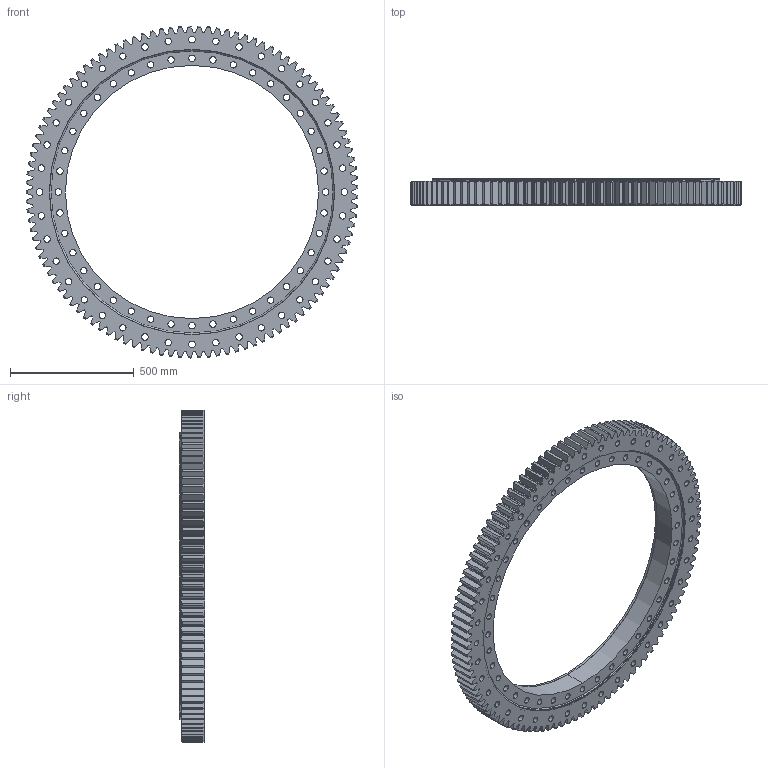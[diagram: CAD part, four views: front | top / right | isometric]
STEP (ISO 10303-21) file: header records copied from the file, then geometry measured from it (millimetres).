
FILE_DESCRIPTION (( 'STEP AP203' ), '1' );
FILE_NAME ('B2225-2-1342AA.STEP', '2022-07-06T15:05:38', ( '' ), ( '' ), 'SwSTEP 2.0', 'SolidWorks 2020', '' );
FILE_SCHEMA (( 'CONFIG_CONTROL_DESIGN' ));
Length unit declared in the file: millimetre
Products named in the file (1): B2225-2-1342AA
Bounding box: 1341.45 x 105 x 1341.57 mm (x, y, z)
Volume: 47268211.2 mm3; surface area: 3720415.6 mm2
Topology: 4 solids, 4 shells, 970 faces, 2861 edges, 1906 vertices
Faces by surface type: cylinder 293, plane 233, cone 226, bspline 218
Entity records: 33728 total; most frequent: CARTESIAN_POINT 9008, ORIENTED_EDGE 5722, DIRECTION 4311, EDGE_CURVE 2861, VERTEX_POINT 1906, AXIS2_PLACEMENT_3D 1569, VECTOR 1173, LINE 1173
